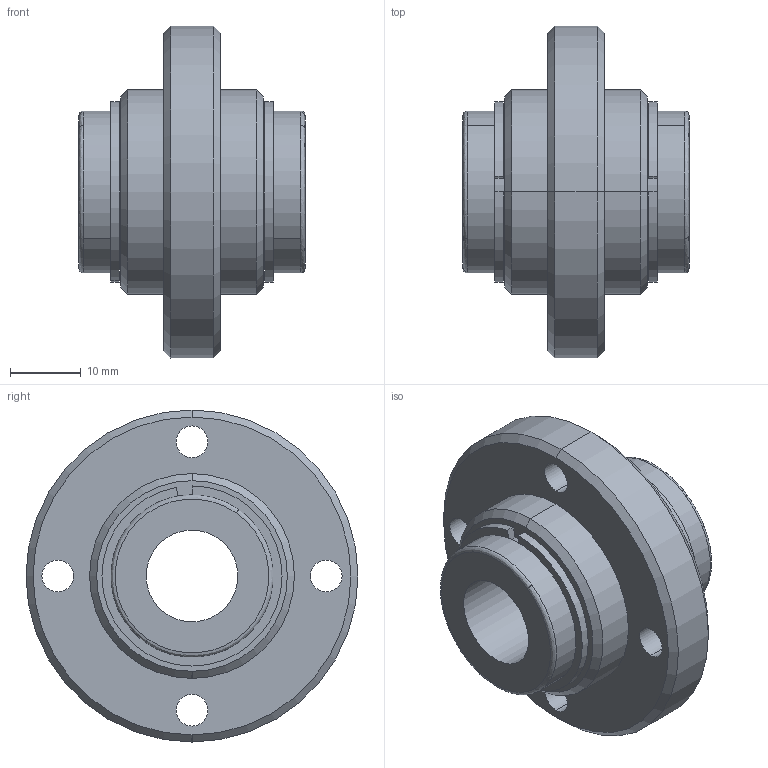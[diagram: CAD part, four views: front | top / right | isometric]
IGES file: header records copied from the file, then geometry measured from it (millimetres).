
Start section: 3D InterOp IGES (Version 21 0 1), Spatial Corp. Copyright (c) 1999-2007.
Global section: file name: PNCD-13VUU.igs; native system: Spatial Corp.; preprocessor: 3D InterOp GENERIC/IGES 3.0; author: Noname; organization: Noname; date: 20220207.092844; units: millimetre
Bounding box: 32 x 47 x 47 mm (x, y, z)
Surface area: 11575.8 mm2 (no closed solid volume)
Topology: 0 solids, 0 shells, 66 faces, 300 edges, 300 vertices
Faces by surface type: revolution 48, extrusion 18
